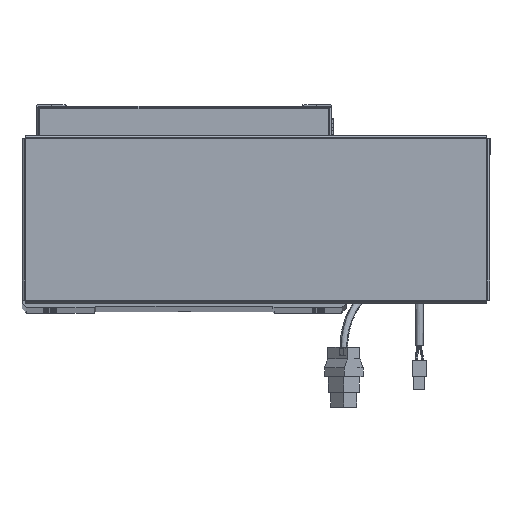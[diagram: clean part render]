
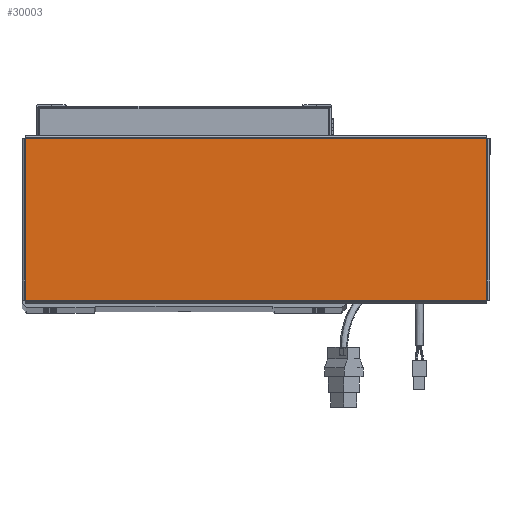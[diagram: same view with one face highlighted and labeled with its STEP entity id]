
A CAD part, top view. The second image highlights one B-rep face of the part: STEP entity #30003.
In plain terms, the highlighted planar face has unit normal (0, 0, 1).
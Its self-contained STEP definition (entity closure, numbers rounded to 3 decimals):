
#2585 = CARTESIAN_POINT ( 'NONE',  ( 0., 0., 0. ) ) ;
#4281 = CARTESIAN_POINT ( 'NONE',  ( 156.513, 54.763, 0. ) ) ;
#4490 = DIRECTION ( 'NONE',  ( 1., 0., 0. ) ) ;
#8364 = VERTEX_POINT ( 'NONE', #13573 ) ;
#10156 = VECTOR ( 'NONE', #21699, 1000. ) ;
#11403 = CARTESIAN_POINT ( 'NONE',  ( -156.513, -54.763, 0. ) ) ;
#12448 = VERTEX_POINT ( 'NONE', #4281 ) ;
#13573 = CARTESIAN_POINT ( 'NONE',  ( -156.513, 54.763, 0. ) ) ;
#15587 = CARTESIAN_POINT ( 'NONE',  ( 156.513, -54.763, 0. ) ) ;
#16987 = EDGE_LOOP ( 'NONE', ( #69927, #56043, #24631, #67883 ) ) ;
#17307 = EDGE_CURVE ( 'NONE', #12448, #8364, #27265, .T. ) ;
#17537 = EDGE_CURVE ( 'NONE', #8364, #26476, #66257, .T. ) ;
#17943 = EDGE_CURVE ( 'NONE', #21062, #12448, #50248, .T. ) ;
#21062 = VERTEX_POINT ( 'NONE', #15587 ) ;
#21699 = DIRECTION ( 'NONE',  ( 1., 0., 0. ) ) ;
#22047 = DIRECTION ( 'NONE',  ( 0., 1., 0. ) ) ;
#23719 = VECTOR ( 'NONE', #22047, 1000. ) ;
#23725 = AXIS2_PLACEMENT_3D ( 'NONE', #2585, #64211, #4490 ) ;
#24631 = ORIENTED_EDGE ( 'NONE', *, *, #17307, .T. ) ;
#26476 = VERTEX_POINT ( 'NONE', #11403 ) ;
#27265 = LINE ( 'NONE', #70819, #28990 ) ;
#27302 = CARTESIAN_POINT ( 'NONE',  ( 156.513, -54.793, 0. ) ) ;
#27313 = LINE ( 'NONE', #43172, #10156 ) ;
#28990 = VECTOR ( 'NONE', #60095, 1000. ) ;
#30003 = ADVANCED_FACE ( 'NONE', ( #54098 ), #53470, .T. ) ;
#35231 = CARTESIAN_POINT ( 'NONE',  ( -156.513, 54.793, 0. ) ) ;
#41443 = VECTOR ( 'NONE', #51685, 1000. ) ;
#43172 = CARTESIAN_POINT ( 'NONE',  ( -156.543, -54.763, 0. ) ) ;
#50248 = LINE ( 'NONE', #27302, #23719 ) ;
#51526 = EDGE_CURVE ( 'NONE', #26476, #21062, #27313, .T. ) ;
#51685 = DIRECTION ( 'NONE',  ( 0., -1., 0. ) ) ;
#53470 = PLANE ( 'NONE',  #23725 ) ;
#54098 = FACE_OUTER_BOUND ( 'NONE', #16987, .T. ) ;
#56043 = ORIENTED_EDGE ( 'NONE', *, *, #17943, .T. ) ;
#60095 = DIRECTION ( 'NONE',  ( -1., 0., 0. ) ) ;
#64211 = DIRECTION ( 'NONE',  ( 0., 0., 1. ) ) ;
#66257 = LINE ( 'NONE', #35231, #41443 ) ;
#67883 = ORIENTED_EDGE ( 'NONE', *, *, #17537, .T. ) ;
#69927 = ORIENTED_EDGE ( 'NONE', *, *, #51526, .T. ) ;
#70819 = CARTESIAN_POINT ( 'NONE',  ( 156.543, 54.763, 0. ) ) ;
